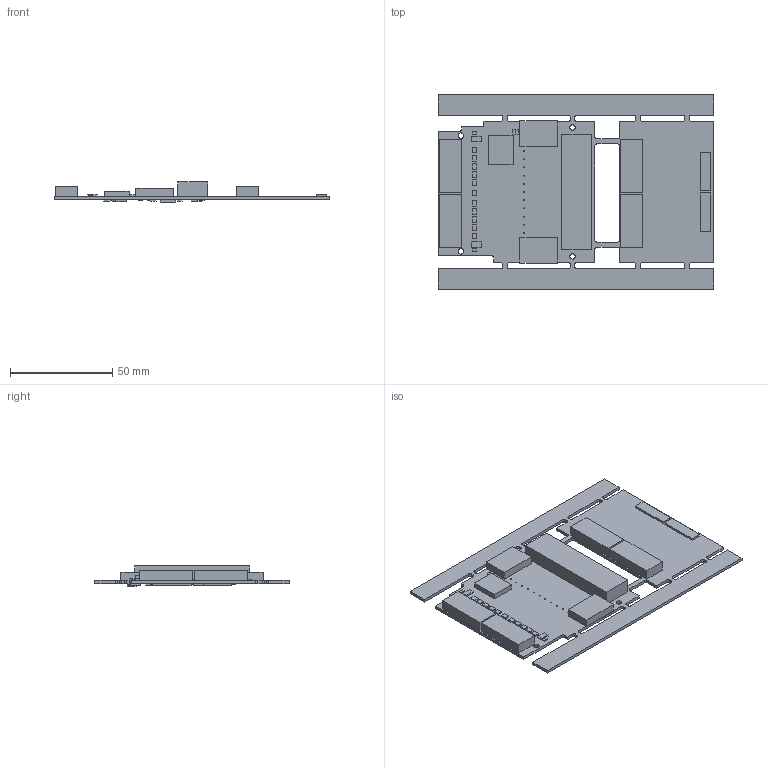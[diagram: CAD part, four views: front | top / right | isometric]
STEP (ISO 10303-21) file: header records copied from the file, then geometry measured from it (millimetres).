
FILE_DESCRIPTION(/* description */ (''),/* implementation_level */ '2;1');
FILE_NAME(/* name */ 'Y:\Designs\QD3619A_Sundance_FMC_CL\Mechanical\FMC_CL.stp',/* time_stamp */ '2018-10-09T09:09:07+01:00',/* author */ ('keithw'),/* organization */ (''),/* preprocessor_version */ 'ST-DEVELOPER v16.5',/* originating_system */ 'Autodesk Inventor 2017',/* authorisation */ '');
FILE_SCHEMA (('AUTOMOTIVE_DESIGN { 1 0 10303 214 3 1 1 }'));
Length unit declared in the file: inch
Products named in the file (15): FMC_CL; FMC_CL_Outline; 12226-5150-00FR; ASP-134488-01; BTS724G; R_10.0K-1%-0402; 0ZCJ0035AF2E; C_100NF-5%-0402; R_330-5%-0402; 503480_3200; 67490-1220; AT24C02C-XHM; TXB0104RGY; RCLAMP0524P; R_100-1%-0402
Assembly tree (59 placements, depth 2):
  FMC_CL
    FMC_CL_Outline
    R_10.0K-1%-0402  x5
    R_330-5%-0402  x4
    RCLAMP0524P  x22
    0ZCJ0035AF2E  x4
    503480_3200  x4
    12226-5150-00FR  x4
    67490-1220  x2
    ASP-134488-01
    C_100NF-5%-0402  x7
    BTS724G
    R_100-1%-0402  x2
    AT24C02C-XHM
    TXB0104RGY
Bounding box: 134.6 x 95 x 9.83 mm (x, y, z)
Volume: 30884.1 mm3; surface area: 34320.9 mm2
Topology: 59 solids, 59 shells, 599 faces, 1443 edges, 962 vertices
Faces by surface type: plane 412, cylinder 187
Full cylindrical faces by diameter (mm): 0.45 x104, 0.508 x22, 1.346 x2, 1.524 x4, 2.3 x8, 2.692 x4
Entity records: 11335 total; most frequent: DIRECTION 1939, CARTESIAN_POINT 1764, ORIENTED_EDGE 1518, AXIS2_PLACEMENT_3D 777, EDGE_LOOP 775, EDGE_CURVE 759, VERTEX_POINT 602, FACE_BOUND 446
